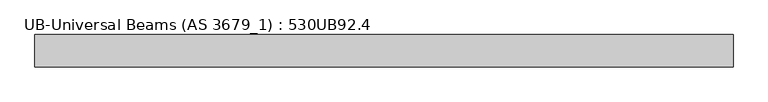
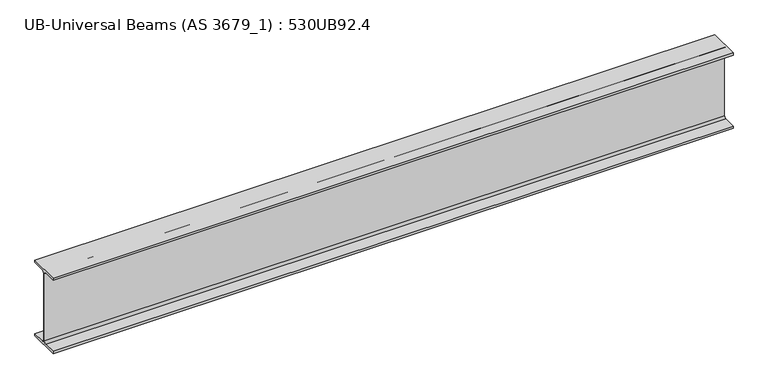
"""IFC4 building model written with IfcOpenShell, lengths in millimetres: beam geometry, UB-Universal Beams (AS 3679_1) : 530UB92.4."""

from ifc_helpers import new_model, si_unit, point, frame, frame_2d, origin, place, context, project, spatial, polyline, circle_curve, trimmed, segment, composite_curve, outline, extrude, source, transform, mapped, element, save


def ub_universal_beams_as_3679_1_530ub92_4_fdd6a9f2(model_context):
    return source(origin(), model_context, "Body", "SweptSolid", [
        extrude(outline(composite_curve([segment(polyline([(104.5, -250.9), (104.5, -266.5), (-104.5, -266.5), (-104.5, -250.9), (-19.1, -250.9)]), True, "CONTINUOUS"), segment(trimmed(circle_curve(frame_2d((-19.1, -236.9)), 14.0), [point((-19.1, -250.9))], [point((-5.1, -236.9))], True, "CARTESIAN"), True, "CONTINUOUS"), segment(polyline([(-5.1, -236.9), (-5.1, 236.9)]), True, "CONTINUOUS"), segment(trimmed(circle_curve(frame_2d((-19.1, 236.9)), 14.0), [point((-5.1, 236.9))], [point((-19.1, 250.9))], True, "CARTESIAN"), True, "CONTINUOUS"), segment(polyline([(-19.1, 250.9), (-104.5, 250.9), (-104.5, 266.5), (104.5, 266.5), (104.5, 250.9), (19.1, 250.9)]), True, "CONTINUOUS"), segment(trimmed(circle_curve(frame_2d((19.1, 236.9)), 14.0), [point((19.1, 250.9))], [point((5.1, 236.9))], True, "CARTESIAN"), True, "CONTINUOUS"), segment(polyline([(5.1, 236.9), (5.1, -236.9)]), True, "CONTINUOUS"), segment(trimmed(circle_curve(frame_2d((19.1, -236.9)), 14.0), [point((5.1, -236.9))], [point((19.1, -250.9))], True, "CARTESIAN"), True, "CONTINUOUS"), segment(polyline([(19.1, -250.9), (104.5, -250.9)]), True, "CONTINUOUS")], self_intersect=False)), frame((-2267.3, 0.0, 0.0), z_axis=(1.0, 0.0, 0.0), x_axis=(0.0, 1.0, 0.0)), (0.0, 0.0, 1.0), 4534.6),
    ])


if __name__ == "__main__":
    model = new_model("IFC4")
    model_context = context("Model", 3, world=origin())
    ifc_project = project(units=[si_unit("LENGTHUNIT", "METRE", prefix="MILLI")], contexts=[model_context])
    site = spatial("IfcSite", under=ifc_project)
    building = spatial("IfcBuilding", under=site)
    placement = place(None, origin())
    ub_universal_beams_as_3679_1_530ub92_4_shape = ub_universal_beams_as_3679_1_530ub92_4_fdd6a9f2(model_context)
    element("IfcBeam", 1, ObjectType="UB-Universal Beams (AS 3679_1) : 530UB92.4", at=placement, inside=building, context=model_context, shape_type="MappedRepresentation", body=[
        mapped(ub_universal_beams_as_3679_1_530ub92_4_shape, transform((0.0, 0.0, 0.0), x_axis=(1.0, 0.0, 0.0), y_axis=(0.0, 1.0, 0.0), z_axis=(0.0, 0.0, 1.0))),
    ])
    save(model, "model.ifc")
